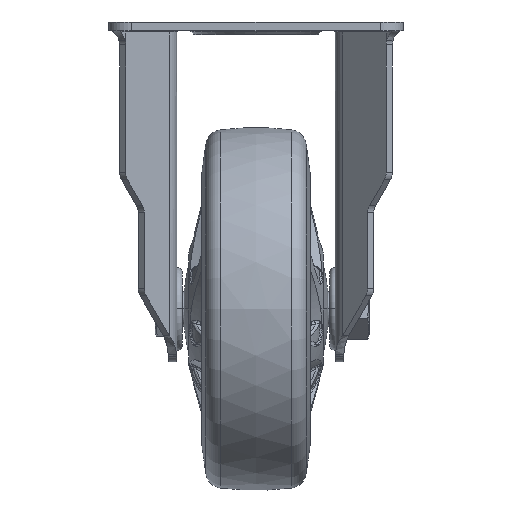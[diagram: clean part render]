
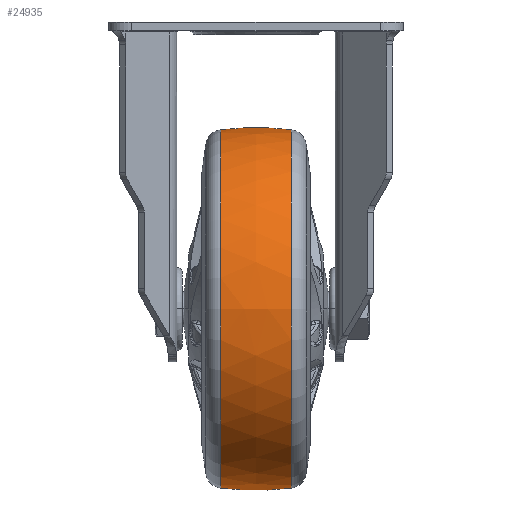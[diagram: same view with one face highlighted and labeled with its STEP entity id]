
A CAD part, left-side view. The second image highlights one B-rep face of the part: STEP entity #24935.
In plain terms, the highlighted free-form (B-spline) face has degree [3, 3] with [7, 4] control points.
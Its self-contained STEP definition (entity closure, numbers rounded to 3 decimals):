
#416 = EDGE_CURVE ( 'NONE', #19565, #15475, #31461, .T. ) ;
#1690 = CIRCLE ( 'NONE', #33130, 100. ) ;
#1839 = CARTESIAN_POINT ( 'NONE',  ( -63.779, -4.315, -100.5 ) ) ;
#2104 = CARTESIAN_POINT ( 'NONE',  ( -63.779, -4.315, -139.749 ) ) ;
#2351 = DIRECTION ( 'NONE',  ( -1., 0., 0. ) ) ;
#2360 = CARTESIAN_POINT ( 'NONE',  ( -62.668, 12.873, -100.5 ) ) ;
#2883 = CARTESIAN_POINT ( 'NONE',  ( 0., -12.38, -100.5 ) ) ;
#3184 = CARTESIAN_POINT ( 'NONE',  ( 0., -12.38, -163.231 ) ) ;
#5629 = CARTESIAN_POINT ( 'NONE',  ( 0., -12.38, -37.769 ) ) ;
#5687 = CARTESIAN_POINT ( 'NONE',  ( -34.555, 12.873, -35.534 ) ) ;
#8126 = DIRECTION ( 'NONE',  ( 0., 0., 1. ) ) ;
#9091 = CIRCLE ( 'NONE', #18723, 62.731 ) ;
#10063 = CARTESIAN_POINT ( 'NONE',  ( -63.779, 4.315, -61.251 ) ) ;
#13118 = AXIS2_PLACEMENT_3D ( 'NONE', #27261, #43961, #30831 ) ;
#13893 = CARTESIAN_POINT ( 'NONE',  ( -34.555, -12.873, -35.534 ) ) ;
#14174 = CARTESIAN_POINT ( 'NONE',  ( -35.167, -4.315, -166.618 ) ) ;
#14695 = CARTESIAN_POINT ( 'NONE',  ( -62.668, -12.873, -61.934 ) ) ;
#14974 = CARTESIAN_POINT ( 'NONE',  ( -62.668, 12.873, -139.066 ) ) ;
#15475 = VERTEX_POINT ( 'NONE', #3184 ) ;
#15540 = CARTESIAN_POINT ( 'NONE',  ( 0., 12.38, -37.769 ) ) ;
#16089 = CARTESIAN_POINT ( 'NONE',  ( 0., 12.38, -100.5 ) ) ;
#17546 = ORIENTED_EDGE ( 'NONE', *, *, #47505, .T. ) ;
#18022 = CARTESIAN_POINT ( 'NONE',  ( 4.005, 4.315, -164.153 ) ) ;
#18387 = CIRCLE ( 'NONE', #24480, 62.731 ) ;
#18563 = CARTESIAN_POINT ( 'NONE',  ( -35.167, 4.315, -34.382 ) ) ;
#18723 = AXIS2_PLACEMENT_3D ( 'NONE', #2883, #53236, #19611 ) ;
#18827 = FACE_OUTER_BOUND ( 'NONE', #41177, .T. ) ;
#19565 = VERTEX_POINT ( 'NONE', #39221 ) ;
#19611 = DIRECTION ( 'NONE',  ( 0., 0., 1. ) ) ;
#22273 = EDGE_CURVE ( 'NONE', #25760, #15475, #9091, .T. ) ;
#22385 = CARTESIAN_POINT ( 'NONE',  ( 4.005, -4.315, -36.847 ) ) ;
#22641 = CARTESIAN_POINT ( 'NONE',  ( 4.005, -4.315, -164.153 ) ) ;
#24480 = AXIS2_PLACEMENT_3D ( 'NONE', #16089, #45899, #8126 ) ;
#24935 = ADVANCED_FACE ( 'NONE', ( #18827 ), #33471, .T. ) ;
#25760 = VERTEX_POINT ( 'NONE', #5629 ) ;
#26743 = CARTESIAN_POINT ( 'NONE',  ( 4.005, 4.315, -36.847 ) ) ;
#27004 = CARTESIAN_POINT ( 'NONE',  ( 3.935, -12.873, -163.044 ) ) ;
#27261 = CARTESIAN_POINT ( 'NONE',  ( 0., 0., -64. ) ) ;
#30831 = DIRECTION ( 'NONE',  ( 0., 0.124, -0.992 ) ) ;
#30849 = CARTESIAN_POINT ( 'NONE',  ( -62.668, -12.873, -139.066 ) ) ;
#31362 = CARTESIAN_POINT ( 'NONE',  ( 0., 0., -137. ) ) ;
#31371 = CARTESIAN_POINT ( 'NONE',  ( 3.935, 12.873, -163.044 ) ) ;
#31461 = CIRCLE ( 'NONE', #13118, 100. ) ;
#31647 = CARTESIAN_POINT ( 'NONE',  ( -63.779, -4.315, -61.251 ) ) ;
#33130 = AXIS2_PLACEMENT_3D ( 'NONE', #31362, #2351, #52447 ) ;
#33471 =( BOUNDED_SURFACE ( )  B_SPLINE_SURFACE ( 3, 3, ( 
 ( #27004, #22641, #18022, #31371 ),
 ( #51663, #14174, #52190, #34960 ),
 ( #30849, #2104, #47545, #14974 ),
 ( #35489, #1839, #47282, #2360 ),
 ( #14695, #31647, #10063, #43174 ),
 ( #13893, #39334, #18563, #5687 ),
 ( #35230, #22385, #26743, #34691 ) ),
 .UNSPECIFIED., .F., .F., .F. ) 
 B_SPLINE_SURFACE_WITH_KNOTS ( ( 4, 3, 4 ),
 ( 4, 4 ),
 ( 0., 1., 2. ),
 ( 0., 1. ),
 .UNSPECIFIED. ) 
 GEOMETRIC_REPRESENTATION_ITEM ( )  RATIONAL_B_SPLINE_SURFACE ( (
 ( 1.192, 1.186, 1.186, 1.192),
 ( 0.941, 0.936, 0.936, 0.941),
 ( 0.941, 0.936, 0.936, 0.941),
 ( 1.192, 1.186, 1.186, 1.192),
 ( 0.941, 0.936, 0.936, 0.941),
 ( 0.941, 0.936, 0.936, 0.941),
 ( 1.192, 1.186, 1.186, 1.192) ) ) 
 REPRESENTATION_ITEM ( '' )  SURFACE ( )  );
#34691 = CARTESIAN_POINT ( 'NONE',  ( 3.935, 12.873, -37.956 ) ) ;
#34960 = CARTESIAN_POINT ( 'NONE',  ( -34.555, 12.873, -165.466 ) ) ;
#35230 = CARTESIAN_POINT ( 'NONE',  ( 3.935, -12.873, -37.956 ) ) ;
#35489 = CARTESIAN_POINT ( 'NONE',  ( -62.668, -12.873, -100.5 ) ) ;
#39221 = CARTESIAN_POINT ( 'NONE',  ( 0., 12.38, -163.231 ) ) ;
#39334 = CARTESIAN_POINT ( 'NONE',  ( -35.167, -4.315, -34.382 ) ) ;
#40501 = EDGE_CURVE ( 'NONE', #51139, #19565, #18387, .T. ) ;
#41177 = EDGE_LOOP ( 'NONE', ( #44921, #50077, #45826, #17546 ) ) ;
#43174 = CARTESIAN_POINT ( 'NONE',  ( -62.668, 12.873, -61.934 ) ) ;
#43961 = DIRECTION ( 'NONE',  ( -1., 0., 0. ) ) ;
#44921 = ORIENTED_EDGE ( 'NONE', *, *, #40501, .T. ) ;
#45826 = ORIENTED_EDGE ( 'NONE', *, *, #22273, .F. ) ;
#45899 = DIRECTION ( 'NONE',  ( 0., -1., 0. ) ) ;
#47282 = CARTESIAN_POINT ( 'NONE',  ( -63.779, 4.315, -100.5 ) ) ;
#47505 = EDGE_CURVE ( 'NONE', #25760, #51139, #1690, .T. ) ;
#47545 = CARTESIAN_POINT ( 'NONE',  ( -63.779, 4.315, -139.749 ) ) ;
#50077 = ORIENTED_EDGE ( 'NONE', *, *, #416, .T. ) ;
#51139 = VERTEX_POINT ( 'NONE', #15540 ) ;
#51663 = CARTESIAN_POINT ( 'NONE',  ( -34.555, -12.873, -165.466 ) ) ;
#52190 = CARTESIAN_POINT ( 'NONE',  ( -35.167, 4.315, -166.618 ) ) ;
#52447 = DIRECTION ( 'NONE',  ( 0., -0.124, 0.992 ) ) ;
#53236 = DIRECTION ( 'NONE',  ( 0., -1., 0. ) ) ;
